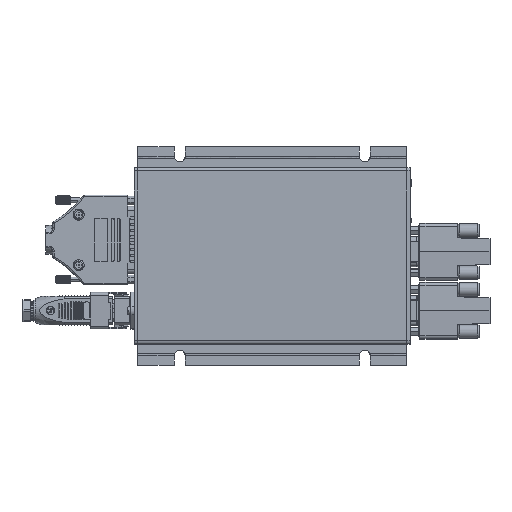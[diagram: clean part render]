
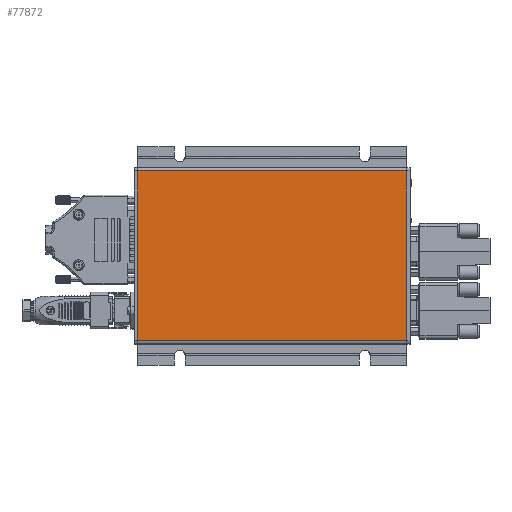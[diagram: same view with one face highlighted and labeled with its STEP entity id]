
A CAD part, top view. The second image highlights one B-rep face of the part: STEP entity #77872.
In plain terms, the highlighted planar face has unit normal (0, 0, 1).
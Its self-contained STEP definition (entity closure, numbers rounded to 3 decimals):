
#47636=CARTESIAN_POINT('',(-80.0,-50.5,44.));
#47637=VERTEX_POINT('',#47636);
#47761=CARTESIAN_POINT('',(-80.0,50.5,44.));
#47762=VERTEX_POINT('',#47761);
#47955=CARTESIAN_POINT('',(-80.0,50.5,44.));
#47956=DIRECTION('',(0.0,-1.0,0.0));
#47957=VECTOR('',#47956,101.);
#47958=LINE('',#47955,#47957);
#47959=EDGE_CURVE('',#47762,#47637,#47958,.T.);
#75542=CARTESIAN_POINT('',(80.0,50.5,44.));
#75543=VERTEX_POINT('',#75542);
#75667=CARTESIAN_POINT('',(80.0,-50.5,44.));
#75668=VERTEX_POINT('',#75667);
#75861=CARTESIAN_POINT('',(80.0,50.5,44.));
#75862=DIRECTION('',(0.0,-1.0,0.0));
#75863=VECTOR('',#75862,101.);
#75864=LINE('',#75861,#75863);
#75865=EDGE_CURVE('',#75543,#75668,#75864,.T.);
#76949=CARTESIAN_POINT('',(-80.0,50.5,44.));
#76950=DIRECTION('',(1.0,0.0,0.0));
#76951=VECTOR('',#76950,160.0);
#76952=LINE('',#76949,#76951);
#76953=EDGE_CURVE('',#47762,#75543,#76952,.T.);
#77850=CARTESIAN_POINT('',(-80.0,-50.5,44.));
#77851=DIRECTION('',(1.0,0.0,0.0));
#77852=VECTOR('',#77851,160.0);
#77853=LINE('',#77850,#77852);
#77854=EDGE_CURVE('',#47637,#75668,#77853,.T.);
#77861=CARTESIAN_POINT('',(0.0,-50.5,44.));
#77862=DIRECTION('',(0.0,0.0,1.0));
#77863=DIRECTION('',(1.0,0.0,0.0));
#77864=AXIS2_PLACEMENT_3D('',#77861,#77862,#77863);
#77865=PLANE('',#77864);
#77866=ORIENTED_EDGE('',*,*,#75865,.F.);
#77867=ORIENTED_EDGE('',*,*,#76953,.F.);
#77868=ORIENTED_EDGE('',*,*,#47959,.T.);
#77869=ORIENTED_EDGE('',*,*,#77854,.T.);
#77870=EDGE_LOOP('',(#77866,#77867,#77868,#77869));
#77871=FACE_OUTER_BOUND('',#77870,.T.);
#77872=ADVANCED_FACE('',(#77871),#77865,.T.);
